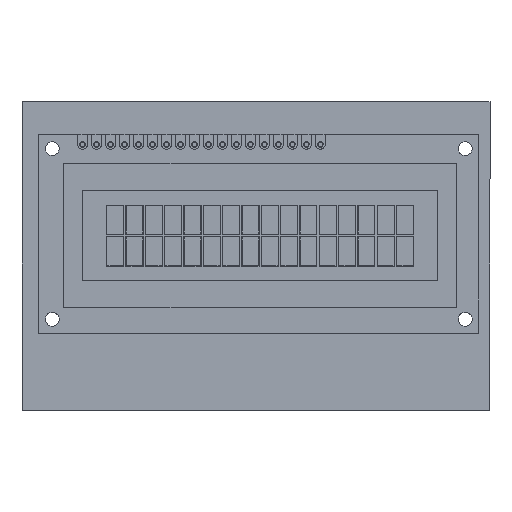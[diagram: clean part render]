
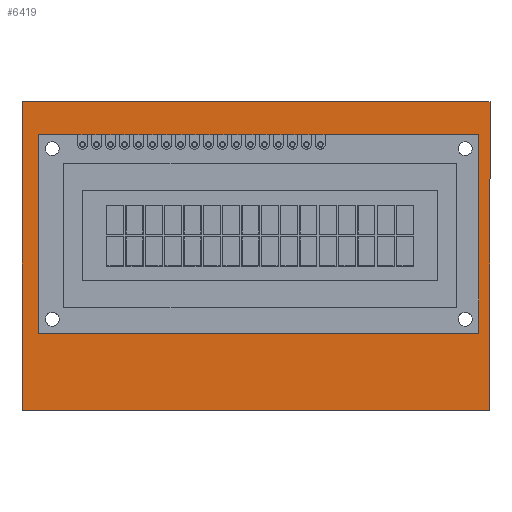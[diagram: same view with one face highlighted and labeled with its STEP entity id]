
A CAD part, top view. The second image highlights one B-rep face of the part: STEP entity #6419.
In plain terms, the highlighted planar face has unit normal (0, 0, 1).
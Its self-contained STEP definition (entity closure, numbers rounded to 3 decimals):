
#437 = VERTEX_POINT ( 'NONE', #13039 ) ;
#558 = ORIENTED_EDGE ( 'NONE', *, *, #7688, .F. ) ;
#715 = CARTESIAN_POINT ( 'NONE',  ( 72.9, 28.95, -4. ) ) ;
#843 = LINE ( 'NONE', #13978, #16606 ) ;
#868 = FACE_BOUND ( 'NONE', #16367, .T. ) ;
#897 = CARTESIAN_POINT ( 'NONE',  ( -0.85, -2.05, -4. ) ) ;
#978 = CARTESIAN_POINT ( 'NONE',  ( 74.15, -2.05, -4. ) ) ;
#986 = CARTESIAN_POINT ( 'NONE',  ( -2.1, 28.95, -4. ) ) ;
#1277 = ORIENTED_EDGE ( 'NONE', *, *, #6364, .T. ) ;
#1318 = LINE ( 'NONE', #6020, #5244 ) ;
#1342 = CARTESIAN_POINT ( 'NONE',  ( -2.1, -2.05, -4. ) ) ;
#1717 = VERTEX_POINT ( 'NONE', #897 ) ;
#2329 = EDGE_CURVE ( 'NONE', #19050, #5155, #19986, .T. ) ;
#2335 = FACE_OUTER_BOUND ( 'NONE', #4371, .T. ) ;
#2345 = DIRECTION ( 'NONE',  ( 0., 0., -1. ) ) ;
#2382 = VERTEX_POINT ( 'NONE', #13676 ) ;
#2619 = ORIENTED_EDGE ( 'NONE', *, *, #18099, .F. ) ;
#2708 = DIRECTION ( 'NONE',  ( -1., 0., 0. ) ) ;
#2752 = DIRECTION ( 'NONE',  ( -1., 0., 0. ) ) ;
#2887 = DIRECTION ( 'NONE',  ( 0., -1., 0. ) ) ;
#2925 = DIRECTION ( 'NONE',  ( 0., 0., -1. ) ) ;
#3100 = FACE_BOUND ( 'NONE', #5547, .T. ) ;
#3146 = CIRCLE ( 'NONE', #10638, 1.25 ) ;
#3311 = PLANE ( 'NONE',  #17660 ) ;
#3520 = ORIENTED_EDGE ( 'NONE', *, *, #9055, .F. ) ;
#3534 = CIRCLE ( 'NONE', #17916, 1.25 ) ;
#4025 = AXIS2_PLACEMENT_3D ( 'NONE', #986, #11962, #14921 ) ;
#4271 = AXIS2_PLACEMENT_3D ( 'NONE', #13786, #10836, #2752 ) ;
#4371 = EDGE_LOOP ( 'NONE', ( #558, #3520, #2619, #17674 ) ) ;
#4452 = DIRECTION ( 'NONE',  ( -1., 0., 0. ) ) ;
#4821 = ORIENTED_EDGE ( 'NONE', *, *, #18602, .T. ) ;
#4993 = ORIENTED_EDGE ( 'NONE', *, *, #9898, .T. ) ;
#5155 = VERTEX_POINT ( 'NONE', #13654 ) ;
#5244 = VECTOR ( 'NONE', #14032, 1000. ) ;
#5400 = EDGE_LOOP ( 'NONE', ( #4821, #4993 ) ) ;
#5402 = CARTESIAN_POINT ( 'NONE',  ( -2.1, 28.95, -4. ) ) ;
#5407 = VERTEX_POINT ( 'NONE', #8560 ) ;
#5547 = EDGE_LOOP ( 'NONE', ( #8461, #1277 ) ) ;
#5563 = DIRECTION ( 'NONE',  ( -1., 0., 0. ) ) ;
#5669 = EDGE_CURVE ( 'NONE', #10542, #7831, #19056, .T. ) ;
#6020 = CARTESIAN_POINT ( 'NONE',  ( -7.6, 37.45, -4. ) ) ;
#6127 = CARTESIAN_POINT ( 'NONE',  ( 77.4, -18.55, -4. ) ) ;
#6176 = VERTEX_POINT ( 'NONE', #13678 ) ;
#6279 = CARTESIAN_POINT ( 'NONE',  ( -3.35, -2.05, -4. ) ) ;
#6364 = EDGE_CURVE ( 'NONE', #5155, #19050, #11905, .T. ) ;
#6419 = ADVANCED_FACE ( 'NONE', ( #3100, #6763, #868, #12909, #2335 ), #3311, .F. ) ;
#6575 = ORIENTED_EDGE ( 'NONE', *, *, #6924, .T. ) ;
#6631 = VECTOR ( 'NONE', #8378, 1000. ) ;
#6763 = FACE_BOUND ( 'NONE', #13755, .T. ) ;
#6892 = VERTEX_POINT ( 'NONE', #7287 ) ;
#6924 = EDGE_CURVE ( 'NONE', #14401, #1717, #3534, .T. ) ;
#6992 = DIRECTION ( 'NONE',  ( -1., 0., 0. ) ) ;
#7287 = CARTESIAN_POINT ( 'NONE',  ( 74.15, 28.95, -4. ) ) ;
#7512 = DIRECTION ( 'NONE',  ( 0., 0., -1. ) ) ;
#7638 = DIRECTION ( 'NONE',  ( -1., 0., 0. ) ) ;
#7688 = EDGE_CURVE ( 'NONE', #2382, #6176, #843, .T. ) ;
#7690 = VERTEX_POINT ( 'NONE', #20188 ) ;
#7831 = VERTEX_POINT ( 'NONE', #978 ) ;
#8262 = CIRCLE ( 'NONE', #14382, 1.25 ) ;
#8378 = DIRECTION ( 'NONE',  ( 1., 0., 0. ) ) ;
#8461 = ORIENTED_EDGE ( 'NONE', *, *, #2329, .T. ) ;
#8560 = CARTESIAN_POINT ( 'NONE',  ( -7.6, -18.55, -4. ) ) ;
#9055 = EDGE_CURVE ( 'NONE', #437, #2382, #19120, .T. ) ;
#9646 = DIRECTION ( 'NONE',  ( -1., 0., 0. ) ) ;
#9736 = ORIENTED_EDGE ( 'NONE', *, *, #5669, .T. ) ;
#9898 = EDGE_CURVE ( 'NONE', #7690, #6892, #3146, .T. ) ;
#9947 = CARTESIAN_POINT ( 'NONE',  ( 77.4, 37.45, -4. ) ) ;
#10542 = VERTEX_POINT ( 'NONE', #17188 ) ;
#10638 = AXIS2_PLACEMENT_3D ( 'NONE', #13626, #19856, #7638 ) ;
#10836 = DIRECTION ( 'NONE',  ( 0., 0., -1. ) ) ;
#11048 = ORIENTED_EDGE ( 'NONE', *, *, #17233, .T. ) ;
#11688 = DIRECTION ( 'NONE',  ( -1., 0., 0. ) ) ;
#11887 = AXIS2_PLACEMENT_3D ( 'NONE', #5402, #16315, #6992 ) ;
#11905 = CIRCLE ( 'NONE', #4025, 1.25 ) ;
#11962 = DIRECTION ( 'NONE',  ( 0., 0., -1. ) ) ;
#12022 = DIRECTION ( 'NONE',  ( 0., 0., -1. ) ) ;
#12166 = CARTESIAN_POINT ( 'NONE',  ( 72.9, -2.05, -4. ) ) ;
#12622 = DIRECTION ( 'NONE',  ( 0., 0., -1. ) ) ;
#12748 = EDGE_CURVE ( 'NONE', #7831, #10542, #8262, .T. ) ;
#12909 = FACE_BOUND ( 'NONE', #5400, .T. ) ;
#13039 = CARTESIAN_POINT ( 'NONE',  ( -7.6, 37.45, -4. ) ) ;
#13626 = CARTESIAN_POINT ( 'NONE',  ( 72.9, 28.95, -4. ) ) ;
#13654 = CARTESIAN_POINT ( 'NONE',  ( -3.35, 28.95, -4. ) ) ;
#13676 = CARTESIAN_POINT ( 'NONE',  ( 77.4, 37.45, -4. ) ) ;
#13678 = CARTESIAN_POINT ( 'NONE',  ( 77.4, -18.55, -4. ) ) ;
#13755 = EDGE_LOOP ( 'NONE', ( #11048, #6575 ) ) ;
#13786 = CARTESIAN_POINT ( 'NONE',  ( 72.9, -2.05, -4. ) ) ;
#13978 = CARTESIAN_POINT ( 'NONE',  ( 77.4, 37.45, -4. ) ) ;
#14032 = DIRECTION ( 'NONE',  ( 0., 1., 0. ) ) ;
#14382 = AXIS2_PLACEMENT_3D ( 'NONE', #12166, #7512, #2708 ) ;
#14401 = VERTEX_POINT ( 'NONE', #6279 ) ;
#14921 = DIRECTION ( 'NONE',  ( -1., 0., 0. ) ) ;
#14961 = CIRCLE ( 'NONE', #16572, 1.25 ) ;
#15396 = AXIS2_PLACEMENT_3D ( 'NONE', #1342, #2925, #4452 ) ;
#16315 = DIRECTION ( 'NONE',  ( 0., 0., -1. ) ) ;
#16316 = ORIENTED_EDGE ( 'NONE', *, *, #12748, .T. ) ;
#16367 = EDGE_LOOP ( 'NONE', ( #16316, #9736 ) ) ;
#16507 = CARTESIAN_POINT ( 'NONE',  ( -0.85, 28.95, -4. ) ) ;
#16572 = AXIS2_PLACEMENT_3D ( 'NONE', #715, #2345, #11688 ) ;
#16606 = VECTOR ( 'NONE', #2887, 1000. ) ;
#16679 = LINE ( 'NONE', #6127, #17442 ) ;
#17188 = CARTESIAN_POINT ( 'NONE',  ( 71.65, -2.05, -4. ) ) ;
#17233 = EDGE_CURVE ( 'NONE', #1717, #14401, #17399, .T. ) ;
#17399 = CIRCLE ( 'NONE', #15396, 1.25 ) ;
#17442 = VECTOR ( 'NONE', #20144, 1000. ) ;
#17516 = CARTESIAN_POINT ( 'NONE',  ( 0., 0., -4. ) ) ;
#17660 = AXIS2_PLACEMENT_3D ( 'NONE', #17516, #12622, #9646 ) ;
#17674 = ORIENTED_EDGE ( 'NONE', *, *, #19416, .F. ) ;
#17916 = AXIS2_PLACEMENT_3D ( 'NONE', #19735, #12022, #5563 ) ;
#18099 = EDGE_CURVE ( 'NONE', #5407, #437, #1318, .T. ) ;
#18602 = EDGE_CURVE ( 'NONE', #6892, #7690, #14961, .T. ) ;
#19050 = VERTEX_POINT ( 'NONE', #16507 ) ;
#19056 = CIRCLE ( 'NONE', #4271, 1.25 ) ;
#19120 = LINE ( 'NONE', #9947, #6631 ) ;
#19416 = EDGE_CURVE ( 'NONE', #6176, #5407, #16679, .T. ) ;
#19735 = CARTESIAN_POINT ( 'NONE',  ( -2.1, -2.05, -4. ) ) ;
#19856 = DIRECTION ( 'NONE',  ( 0., 0., -1. ) ) ;
#19986 = CIRCLE ( 'NONE', #11887, 1.25 ) ;
#20144 = DIRECTION ( 'NONE',  ( -1., 0., 0. ) ) ;
#20188 = CARTESIAN_POINT ( 'NONE',  ( 71.65, 28.95, -4. ) ) ;
